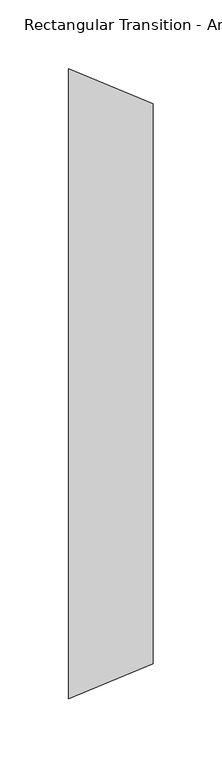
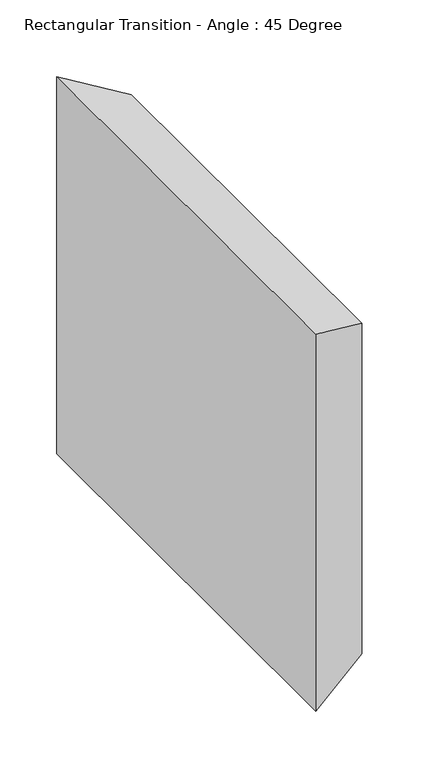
"""IFC4 building model written with IfcOpenShell, lengths in millimetres: duct fitting geometry, Rectangular Transition - Angle : 45 Degree."""

from ifc_helpers import new_model, si_unit, origin, place, context, project, spatial, faceted_brep, source, transform, mapped, element, save


def rectangular_transition_angle_45_degree_6252f190(model_context):
    return source(origin(), model_context, "Body", "Brep", [
        faceted_brep([(61.3210245, -203.2, 177.8), (61.3210245, -203.2, -177.8), (61.3210245, 203.2, -177.8), (61.3210245, 203.2, 177.8), (0.0, -228.6, 203.2), (0.0, 228.6, 203.2), (0.0, 228.6, -203.2), (0.0, -228.6, -203.2)], [[[0, 1, 2, 3]], [[4, 5, 6, 7]], [[4, 7, 1, 0]], [[7, 6, 2, 1]], [[6, 5, 3, 2]], [[5, 4, 0, 3]]]),
    ])


if __name__ == "__main__":
    model = new_model("IFC4")
    model_context = context("Model", 3, world=origin())
    ifc_project = project(units=[si_unit("LENGTHUNIT", "METRE", prefix="MILLI")], contexts=[model_context])
    site = spatial("IfcSite", under=ifc_project)
    building = spatial("IfcBuilding", under=site)
    placement = place(None, origin())
    rectangular_transition_angle_45_degree_shape = rectangular_transition_angle_45_degree_6252f190(model_context)
    element("IfcDuctFitting", 1, ObjectType="Rectangular Transition - Angle : 45 Degree", at=placement, inside=building, context=model_context, shape_type="MappedRepresentation", body=[
        mapped(rectangular_transition_angle_45_degree_shape, transform((0.0, 0.0, 0.0), x_axis=(1.0, 0.0, 0.0), y_axis=(0.0, 1.0, 0.0), z_axis=(0.0, 0.0, 1.0))),
    ])
    save(model, "model.ifc")
